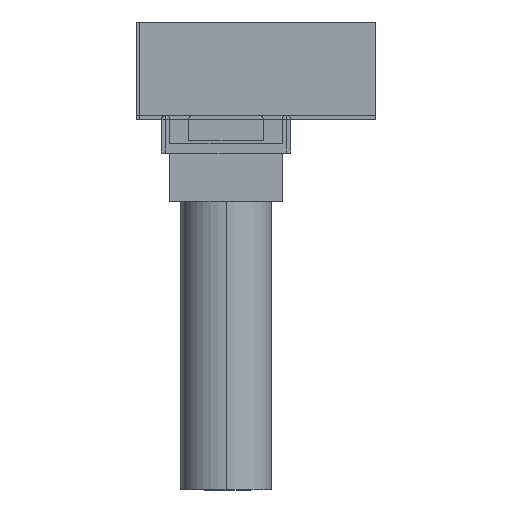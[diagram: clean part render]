
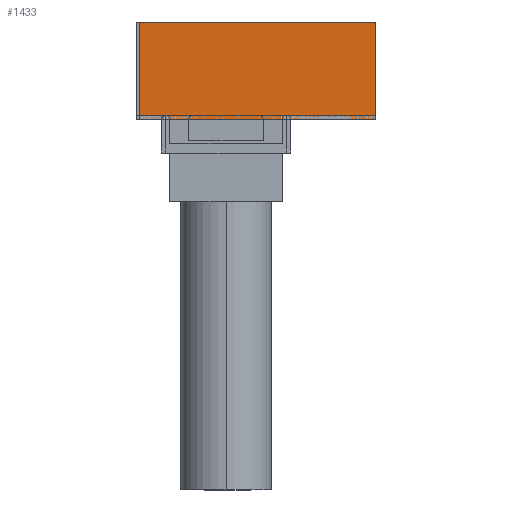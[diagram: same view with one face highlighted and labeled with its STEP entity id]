
A CAD part, left-side view. The second image highlights one B-rep face of the part: STEP entity #1433.
In plain terms, the highlighted planar face has unit normal (-1, 0, 0).
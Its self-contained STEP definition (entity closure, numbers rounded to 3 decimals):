
#83=PLANE('',#1571);
#173=FACE_OUTER_BOUND('',#263,.T.);
#263=EDGE_LOOP('',(#1221,#1222,#1223,#1224));
#395=LINE('',#2235,#571);
#399=LINE('',#2242,#575);
#402=LINE('',#2248,#578);
#404=LINE('',#2251,#580);
#571=VECTOR('',#1835,304.8);
#575=VECTOR('',#1841,304.8);
#578=VECTOR('',#1846,304.8);
#580=VECTOR('',#1850,304.8);
#743=VERTEX_POINT('',#2232);
#744=VERTEX_POINT('',#2234);
#746=VERTEX_POINT('',#2240);
#748=VERTEX_POINT('',#2246);
#907=EDGE_CURVE('',#744,#743,#395,.T.);
#911=EDGE_CURVE('',#743,#746,#399,.T.);
#914=EDGE_CURVE('',#746,#748,#402,.T.);
#916=EDGE_CURVE('',#748,#744,#404,.T.);
#1221=ORIENTED_EDGE('',*,*,#907,.T.);
#1222=ORIENTED_EDGE('',*,*,#911,.T.);
#1223=ORIENTED_EDGE('',*,*,#914,.T.);
#1224=ORIENTED_EDGE('',*,*,#916,.T.);
#1433=ADVANCED_FACE('',(#173),#83,.T.);
#1571=AXIS2_PLACEMENT_3D('',#2252,#1851,#1852);
#1835=DIRECTION('',(0.,1.,0.));
#1841=DIRECTION('',(0.,0.,-1.));
#1846=DIRECTION('',(0.,-1.,0.));
#1850=DIRECTION('',(0.,0.,1.));
#1851=DIRECTION('center_axis',(-1.,0.,0.));
#1852=DIRECTION('ref_axis',(0.,0.,1.));
#2232=CARTESIAN_POINT('',(-450.,48.,50.));
#2234=CARTESIAN_POINT('',(-450.,-80.,50.));
#2235=CARTESIAN_POINT('',(-450.,-80.,50.));
#2240=CARTESIAN_POINT('',(-450.,48.,-2.));
#2242=CARTESIAN_POINT('',(-450.,48.,50.));
#2246=CARTESIAN_POINT('',(-450.,-80.,-2.));
#2248=CARTESIAN_POINT('',(-450.,48.,-2.));
#2251=CARTESIAN_POINT('',(-450.,-80.,-2.));
#2252=CARTESIAN_POINT('Origin',(-450.,-80.,50.));
